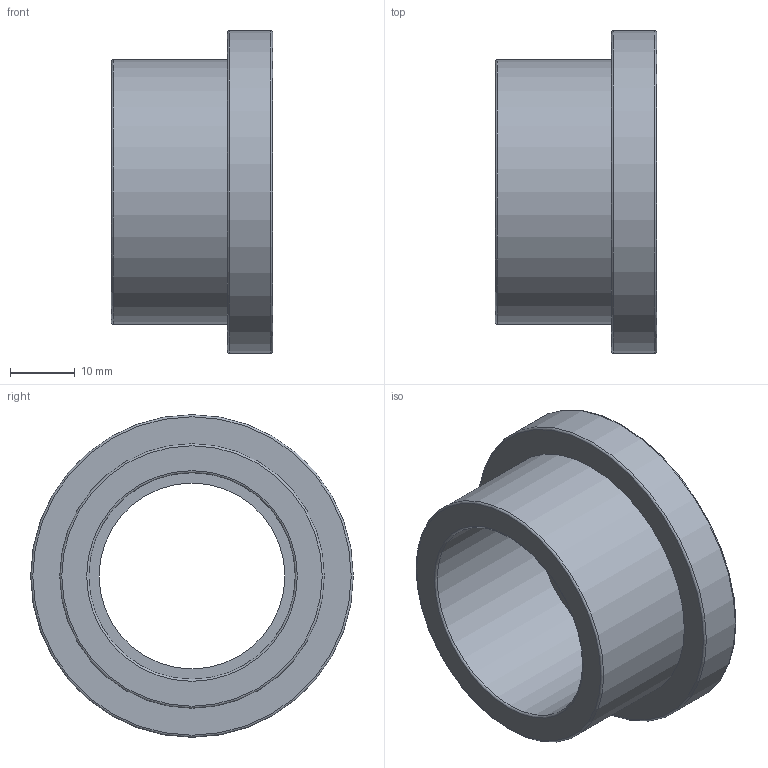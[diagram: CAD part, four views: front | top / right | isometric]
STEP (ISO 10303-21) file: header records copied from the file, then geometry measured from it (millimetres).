
FILE_DESCRIPTION(/* description */ ('PLASSON FLANGE FLAT AD.-CEM 32'),/* implementation_level */ '2;1');
FILE_NAME(/* name */ 'C:\Dropbox\KIMPROJECTS-Inventor\99-16-3568-Processing\PVC Catalog 2017\26_09_18\055100\055100032.ipt.stp',/* time_stamp */ '2018-09-27T11:50:42+03:00',/* author */ ('KIM'),/* organization */ (''),/* preprocessor_version */ 'ST-DEVELOPER v15.6',/* originating_system */ 'Autodesk Inventor 2015',/* authorisation */ '');
FILE_SCHEMA (('AUTOMOTIVE_DESIGN { 1 0 10303 214 3 1 1 }'));
Length unit declared in the file: millimetre
Products named in the file (1): 055100032
Bounding box: 25 x 50 x 50 mm (x, y, z)
Volume: 17847.4 mm3; surface area: 8438.2 mm2
Topology: 1 solids, 1 shells, 13 faces, 22 edges, 13 vertices
Faces by surface type: torus 5, cylinder 4, plane 4
Full cylindrical faces by diameter (mm): 28.8 x1, 32 x1, 41 x1, 50 x1
Entity records: 292 total; most frequent: DIRECTION 54, CARTESIAN_POINT 40, AXIS2_PLACEMENT_3D 27, EDGE_LOOP 26, ORIENTED_EDGE 26, FACE_BOUND 13, FACE_OUTER_BOUND 13, CIRCLE 13
